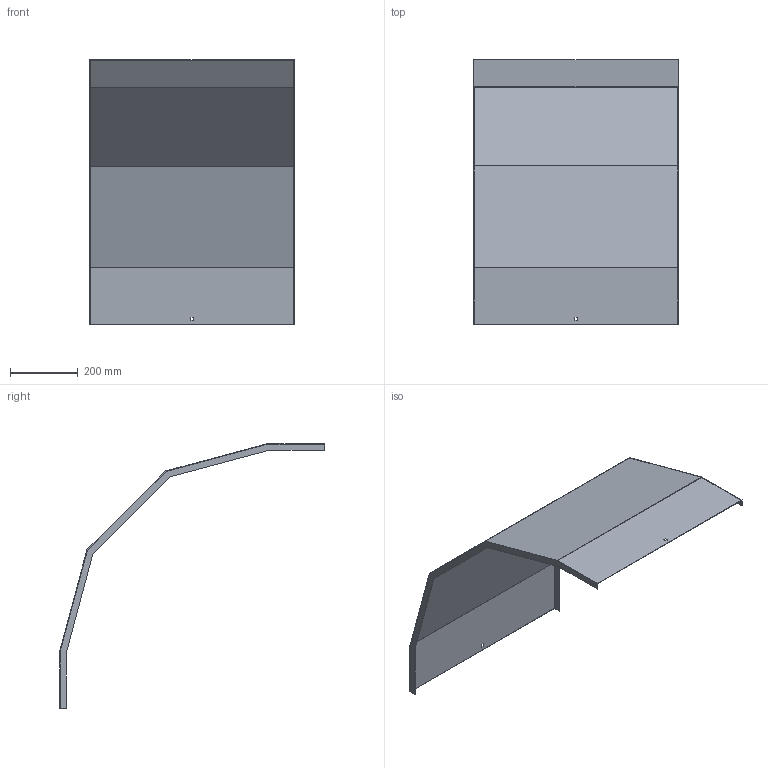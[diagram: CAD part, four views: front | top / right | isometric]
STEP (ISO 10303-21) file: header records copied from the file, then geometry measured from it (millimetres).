
FILE_DESCRIPTION (( 'STEP AP214' ), '1' );
FILE_NAME ('33N5J600.step', '2025-02-21T10:44:01', ( '' ), ( '' ), 'SwSTEP 2.0', 'SolidWorks 2023', '' );
FILE_SCHEMA (( 'AUTOMOTIVE_DESIGN' ));
Length unit declared in the file: millimetre
Products named in the file (1): 33N5J600
Bounding box: 603 x 779.96 x 779.96 mm (x, y, z)
Volume: 1230395.9 mm3; surface area: 1646300.5 mm2
Topology: 1 solids, 1 shells, 34 faces, 96 edges, 64 vertices
Faces by surface type: plane 34
Entity records: 1111 total; most frequent: CARTESIAN_POINT 195, ORIENTED_EDGE 192, DIRECTION 166, LINE 96, EDGE_CURVE 96, VECTOR 96, VERTEX_POINT 64, EDGE_LOOP 38
